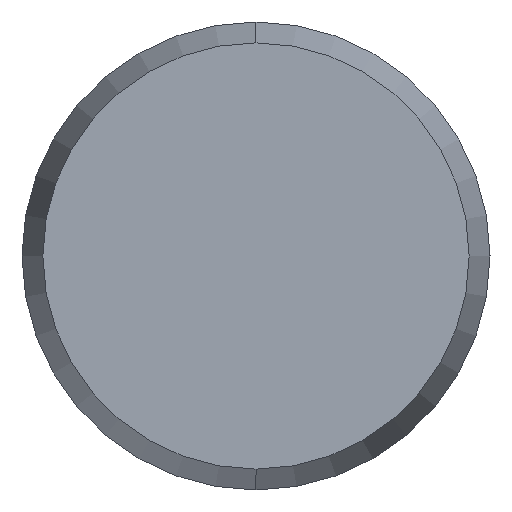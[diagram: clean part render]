
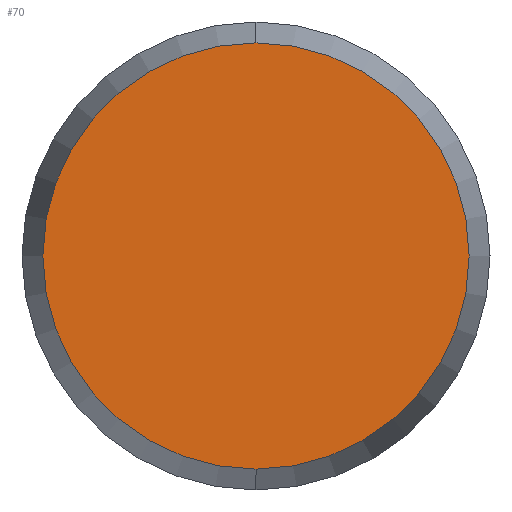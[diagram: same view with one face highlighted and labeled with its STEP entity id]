
A CAD part, left-side view. The second image highlights one B-rep face of the part: STEP entity #70.
In plain terms, the highlighted planar face has unit normal (-1, 0, 0).
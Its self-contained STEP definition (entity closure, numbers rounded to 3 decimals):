
#4 = FACE_OUTER_BOUND ( 'NONE', #71, .T. ) ;
#5 = AXIS2_PLACEMENT_3D ( 'NONE', #12, #7, #9 ) ;
#6 = PLANE ( 'NONE',  #5 ) ;
#7 = DIRECTION ( 'NONE',  ( 1., 0., 0. ) ) ;
#9 = DIRECTION ( 'NONE',  ( 0., 0., -1. ) ) ;
#12 = CARTESIAN_POINT ( 'NONE',  ( -8., 0., 0. ) ) ;
#66 = EDGE_CURVE ( 'NONE', #102, #100, #142, .T. ) ;
#70 = ADVANCED_FACE ( 'NONE', ( #4 ), #6, .F. ) ;
#71 = EDGE_LOOP ( 'NONE', ( #90, #83 ) ) ;
#83 = ORIENTED_EDGE ( 'NONE', *, *, #66, .F. ) ;
#90 = ORIENTED_EDGE ( 'NONE', *, *, #99, .F. ) ;
#99 = EDGE_CURVE ( 'NONE', #100, #102, #166, .T. ) ;
#100 = VERTEX_POINT ( 'NONE', #165 ) ;
#102 = VERTEX_POINT ( 'NONE', #155 ) ;
#105 = DIRECTION ( 'NONE',  ( 0., 0., -1. ) ) ;
#109 = AXIS2_PLACEMENT_3D ( 'NONE', #110, #111, #105 ) ;
#110 = CARTESIAN_POINT ( 'NONE',  ( -8., 0., 0. ) ) ;
#111 = DIRECTION ( 'NONE',  ( 1., 0., 0. ) ) ;
#142 = CIRCLE ( 'NONE', #143, 2.732 ) ;
#143 = AXIS2_PLACEMENT_3D ( 'NONE', #145, #146, #144 ) ;
#144 = DIRECTION ( 'NONE',  ( 0., 0., -1. ) ) ;
#145 = CARTESIAN_POINT ( 'NONE',  ( -8., 0., 0. ) ) ;
#146 = DIRECTION ( 'NONE',  ( 1., 0., 0. ) ) ;
#155 = CARTESIAN_POINT ( 'NONE',  ( -8., 0., -2.732 ) ) ;
#165 = CARTESIAN_POINT ( 'NONE',  ( -8., 0., 2.732 ) ) ;
#166 = CIRCLE ( 'NONE', #109, 2.732 ) ;
